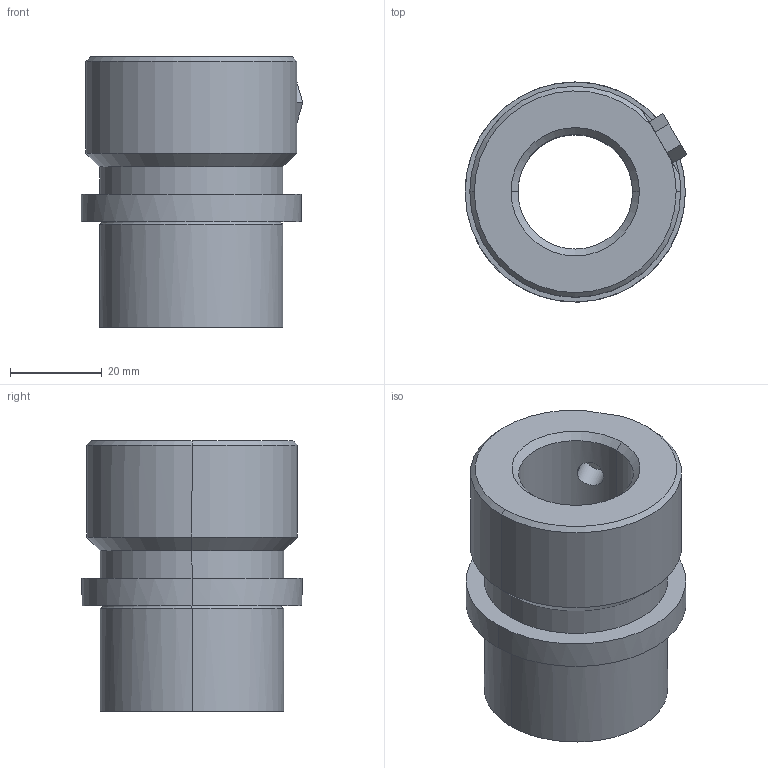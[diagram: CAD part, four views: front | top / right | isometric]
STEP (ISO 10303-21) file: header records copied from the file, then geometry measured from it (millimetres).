
FILE_DESCRIPTION(('CATIA V5 STEP Exchange'),'2;1');
FILE_NAME('C:\Users\Utente\Desktop\IO LAVORO\3D X SITO CF\X SITO\741\741-25.stp','2021-01-20T18:41:28+00:00',('none'),('none'),'CATIA Version 5 Release 20 GA (IN-10)','CATIA V5 STEP AP203','none');
FILE_SCHEMA(('CONFIG_CONTROL_DESIGN'));
Length unit declared in the file: millimetre
Products named in the file (1): 741-25
Assembly tree (1 placements, depth 2):
  741-25
    #58
Bounding box: 48.34 x 48 x 59 mm (x, y, z)
Volume: 57091.5 mm3; surface area: 16078.3 mm2
Topology: 1 solids, 1 shells, 42 faces, 92 edges, 57 vertices
Faces by surface type: plane 15, cylinder 14, cone 9, torus 4
Entity records: 1308 total; most frequent: CARTESIAN_POINT 345, ORIENTED_EDGE 184, DIRECTION 168, EDGE_CURVE 92, AXIS2_PLACEMENT_3D 81, VERTEX_POINT 57, EDGE_LOOP 49, VECTOR 44
